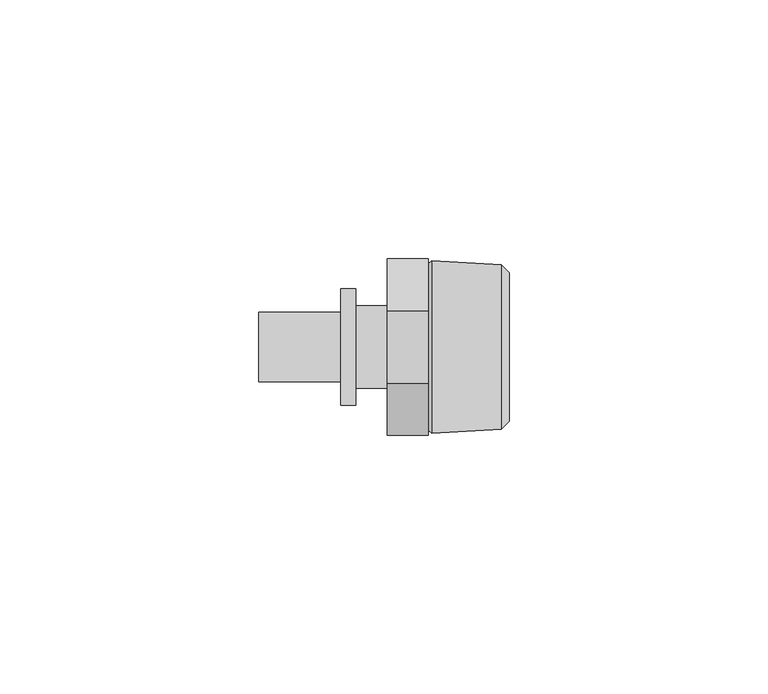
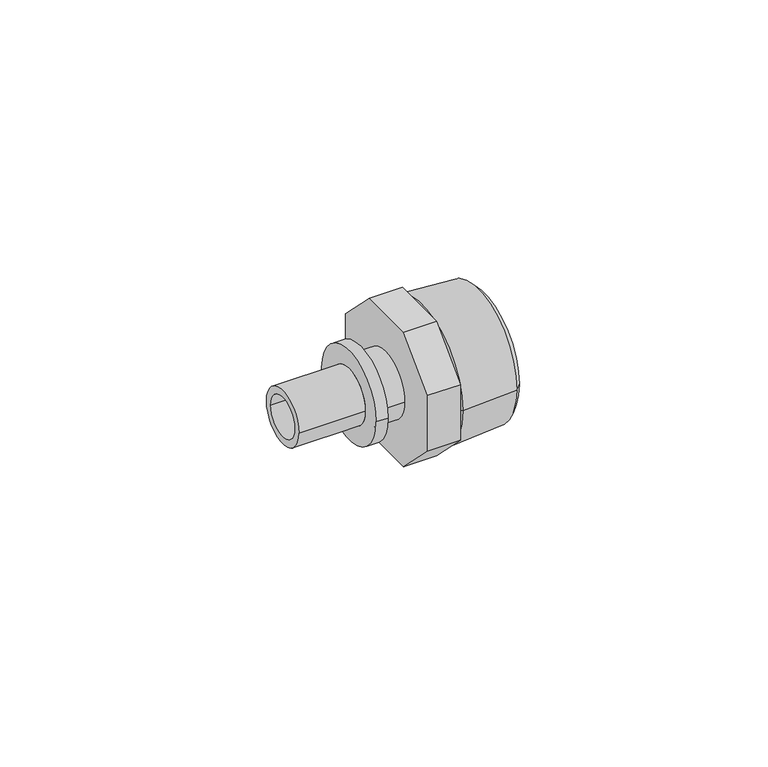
"""IFC4 building model written with IfcOpenShell, lengths in millimetres: pipe fitting geometry, REHAU_RAUTITAN_Adaptor_RX+, with external thread : REHAU_RAUTITAN_Adaptor_RX+, with external thread."""

from ifc_helpers import new_model, si_unit, point, frame, origin, origin_2d, place, context, project, spatial, polyline, circle_curve, trimmed, segment, composite_curve, outline, extrude, source, transform, mapped, element, save
from ifc_brep_helpers import plane_surface, cylinder_surface, revolved_surface, advanced_brep


def pipe_fitting_3f19c21a(model_context):
    return source(origin(), model_context, "Body", "SolidModel", [
        advanced_brep(
        [(8.9732803, 12.75, 0.0), (8.9732803, -12.75, 0.0), (23.5, -12.75, 0.0), (23.5, 12.75, 0.0), (7.87, 11.6467197, 0.0), (7.87, -11.6467197, 0.0), (8.6106902, 16.695, 0.0), (8.6106902, -16.695, 0.0), (7.87, -16.1, 0.0), (7.87, 16.1, 0.0), (22.0000007, 15.91, 0.0), (22.0000007, -15.91, 0.0), (23.5, 14.3, 0.0), (23.5, -14.3, 0.0)],
        [
            (0, 1, circle_curve(frame((8.9732803, 0.0, 0.0), z_axis=(-1.0, 0.0, 0.0), x_axis=(0.0, -1.0, 0.0)), 12.75)),
            (1, 2),
            (2, 3, circle_curve(frame((23.5, 0.0, 0.0), z_axis=(1.0, 0.0, 0.0), x_axis=(0.0, -1.0, 0.0)), 12.75)),
            (3, 0),
            (4, 5, circle_curve(frame((7.87, 0.0, 0.0), z_axis=(-1.0, 0.0, 0.0), x_axis=(0.0, -1.0, 0.0)), 11.6467197)),
            (5, 1),
            (0, 4),
            (6, 7, circle_curve(frame((8.6106902, 0.0, 0.0), z_axis=(-1.0, 0.0, 0.0), x_axis=(0.0, -1.0, 0.0)), 16.695)),
            (7, 8),
            (8, 9, circle_curve(frame((7.87, 0.0, 0.0), z_axis=(1.0, 0.0, 0.0), x_axis=(0.0, -1.0, 0.0)), 16.1)),
            (9, 6),
            (10, 11, circle_curve(frame((22.0000007, 0.0, 0.0), z_axis=(-1.0, 0.0, 0.0), x_axis=(0.0, -1.0, 0.0)), 15.91)),
            (11, 7),
            (6, 10),
            (12, 13, circle_curve(frame((23.5, 0.0, 0.0), z_axis=(-1.0, 0.0, 0.0), x_axis=(0.0, -1.0, 0.0)), 14.3)),
            (13, 11),
            (10, 12),
            (1, 0, circle_curve(frame((8.9732803, 0.0, 0.0), z_axis=(-1.0, 0.0, 0.0), x_axis=(0.0, 1.0, 0.0)), 12.75)),
            (3, 2, circle_curve(frame((23.5, 0.0, 0.0), z_axis=(1.0, 0.0, 0.0), x_axis=(0.0, 1.0, 0.0)), 12.75)),
            (5, 4, circle_curve(frame((7.87, 0.0, 0.0), z_axis=(-1.0, 0.0, 0.0), x_axis=(0.0, 1.0, 0.0)), 11.6467197)),
            (8, 9, circle_curve(frame((7.87, 0.0, 0.0), z_axis=(-1.0, 0.0, 0.0), x_axis=(0.0, 1.0, 0.0)), 16.1)),
            (7, 6, circle_curve(frame((8.6106902, 0.0, 0.0), z_axis=(-1.0, 0.0, 0.0), x_axis=(0.0, 1.0, 0.0)), 16.695)),
            (11, 10, circle_curve(frame((22.0000007, 0.0, 0.0), z_axis=(-1.0, 0.0, 0.0), x_axis=(0.0, 1.0, 0.0)), 15.91)),
            (13, 12, circle_curve(frame((23.5, 0.0, 0.0), z_axis=(-1.0, 0.0, 0.0), x_axis=(0.0, 1.0, 0.0)), 14.3)),
        ],
        [
            revolved_surface(polyline([(23.5, -12.75, 0.0), (8.9732803, -12.75, 0.0)]), (0.0, 0.0, 0.0), (1.0, 0.0, 0.0)),
            revolved_surface(polyline([(8.9732803, -12.75, 0.0), (7.87, -11.6467197, 0.0)]), (0.0, 0.0, 0.0), (1.0, 0.0, 0.0)),
            revolved_surface(polyline([(7.87, -16.1, 0.0), (8.6106902, -16.695, 0.0)]), (0.0, 0.0, 0.0), (1.0, 0.0, 0.0)),
            revolved_surface(polyline([(8.6106902, -16.695, 0.0), (22.0000007, -15.91, 0.0)]), (0.0, 0.0, 0.0), (1.0, 0.0, 0.0)),
            revolved_surface(polyline([(22.0000007, -15.91, 0.0), (23.5, -14.3, 0.0)]), (0.0, 0.0, 0.0), (1.0, 0.0, 0.0)),
            revolved_surface(polyline([(23.5, 12.75, 0.0), (8.9732803, 12.75, 0.0)]), (0.0, 0.0, 0.0), (1.0, 0.0, 0.0)),
            revolved_surface(polyline([(8.9732803, 12.75, 0.0), (7.87, 11.6467197, 0.0)]), (0.0, 0.0, 0.0), (1.0, 0.0, 0.0)),
            plane_surface(frame((7.87, 0.0, 0.0), z_axis=(-1.0, 0.0, 0.0), x_axis=(0.0, 1.0, 0.0))),
            revolved_surface(polyline([(7.87, 16.1, 0.0), (8.6106902, 16.695, 0.0)]), (0.0, 0.0, 0.0), (1.0, 0.0, 0.0)),
            revolved_surface(polyline([(8.6106902, 16.695, 0.0), (22.0000007, 15.91, 0.0)]), (0.0, 0.0, 0.0), (1.0, 0.0, 0.0)),
            revolved_surface(polyline([(22.0000007, 15.91, 0.0), (23.5, 14.3, 0.0)]), (0.0, 0.0, 0.0), (1.0, 0.0, 0.0)),
            plane_surface(frame((23.5, 0.0, 0.0), z_axis=(1.0, 0.0, 0.0), x_axis=(0.0, 1.0, 0.0))),
        ],
        [
            (0, [[1, 2, 3, 4]]),
            (1, [[5, 6, -1, 7]]),
            (2, [[8, 9, 10, 11]]),
            (3, [[12, 13, -8, 14]]),
            (4, [[15, 16, -12, 17]]),
            (5, [[18, -4, 19, -2]]),
            (6, [[20, -7, -18, -6]]),
            (7, [[21, -10], [-20, -5]]),
            (8, [[22, -11, -21, -9]]),
            (9, [[23, -14, -22, -13]]),
            (10, [[24, -17, -23, -16]]),
            (11, [[-24, -15], [-19, -3]]),
        ],
    ),
        extrude(outline(polyline([(-7.0416306, -17.0), (-17.0, -7.0416306), (-17.0, 7.0416306), (-7.0416306, 17.0), (7.0416306, 17.0), (17.0, 7.0416306), (17.0, -7.0416306), (7.0416306, -17.0), (-7.0416306, -17.0)]), holes=[composite_curve([segment(trimmed(circle_curve(origin_2d(), 4.95), [point((-4.95, 0.0))], [point((4.95, 0.0))], True, "CARTESIAN"), True, "CONTINUOUS"), segment(trimmed(circle_curve(origin_2d(), 4.95), [point((4.95, 0.0))], [point((-4.95, 0.0))], True, "CARTESIAN"), True, "CONTINUOUS")], self_intersect=False)]), frame((0.0, 0.0, 0.0), z_axis=(1.0, 0.0, 0.0), x_axis=(0.0, 1.0, 0.0)), (0.0, 0.0, 1.0), 7.87),
        advanced_brep(
        [(-24.8, 4.95, 0.0), (-24.8, -4.95, 0.0), (0.0, -4.95, 0.0), (0.0, 4.95, 0.0), (-8.97, 6.725, 0.0), (-8.97, -6.725, 0.0), (-24.8, -6.725, 0.0), (-24.8, 6.725, 0.0), (-6.1, 11.25, 0.0), (-6.1, -11.25, 0.0), (-8.97, -11.25, 0.0), (-8.97, 11.25, 0.0), (0.0, 8.0, 0.0), (0.0, -8.0, 0.0), (-6.1, -8.0, 0.0), (-6.1, 8.0, 0.0)],
        [
            (0, 1, circle_curve(frame((-24.8, 0.0, 0.0), z_axis=(-1.0, 0.0, 0.0), x_axis=(0.0, -1.0, 0.0)), 4.95)),
            (1, 2),
            (2, 3, circle_curve(frame((0.0, 0.0, 0.0), z_axis=(1.0, 0.0, 0.0), x_axis=(0.0, -1.0, 0.0)), 4.95)),
            (3, 0),
            (4, 5, circle_curve(frame((-8.97, 0.0, 0.0), z_axis=(-1.0, 0.0, 0.0), x_axis=(0.0, -1.0, 0.0)), 6.725)),
            (5, 6),
            (6, 7, circle_curve(frame((-24.8, 0.0, 0.0), z_axis=(1.0, 0.0, 0.0), x_axis=(0.0, -1.0, 0.0)), 6.725)),
            (7, 4),
            (8, 9, circle_curve(frame((-6.1, 0.0, 0.0), z_axis=(-1.0, 0.0, 0.0), x_axis=(0.0, -1.0, 0.0)), 11.25)),
            (9, 10),
            (10, 11, circle_curve(frame((-8.97, 0.0, 0.0), z_axis=(1.0, 0.0, 0.0), x_axis=(0.0, -1.0, 0.0)), 11.25)),
            (11, 8),
            (12, 13, circle_curve(frame((0.0, 0.0, 0.0), z_axis=(-1.0, 0.0, 0.0), x_axis=(0.0, -1.0, 0.0)), 8.0)),
            (13, 14),
            (14, 15, circle_curve(frame((-6.1, 0.0, 0.0), z_axis=(1.0, 0.0, 0.0), x_axis=(0.0, -1.0, 0.0)), 8.0)),
            (15, 12),
            (12, 13, circle_curve(frame((0.0, 0.0, 0.0), z_axis=(1.0, 0.0, 0.0), x_axis=(0.0, 1.0, 0.0)), 8.0)),
            (2, 3, circle_curve(frame((0.0, 0.0, 0.0), z_axis=(-1.0, 0.0, 0.0), x_axis=(0.0, 1.0, 0.0)), 4.95)),
            (1, 0, circle_curve(frame((-24.8, 0.0, 0.0), z_axis=(-1.0, 0.0, 0.0), x_axis=(0.0, 1.0, 0.0)), 4.95)),
            (6, 7, circle_curve(frame((-24.8, 0.0, 0.0), z_axis=(-1.0, 0.0, 0.0), x_axis=(0.0, 1.0, 0.0)), 6.725)),
            (5, 4, circle_curve(frame((-8.97, 0.0, 0.0), z_axis=(-1.0, 0.0, 0.0), x_axis=(0.0, 1.0, 0.0)), 6.725)),
            (10, 11, circle_curve(frame((-8.97, 0.0, 0.0), z_axis=(-1.0, 0.0, 0.0), x_axis=(0.0, 1.0, 0.0)), 11.25)),
            (9, 8, circle_curve(frame((-6.1, 0.0, 0.0), z_axis=(-1.0, 0.0, 0.0), x_axis=(0.0, 1.0, 0.0)), 11.25)),
            (14, 15, circle_curve(frame((-6.1, 0.0, 0.0), z_axis=(-1.0, 0.0, 0.0), x_axis=(0.0, 1.0, 0.0)), 8.0)),
        ],
        [
            revolved_surface(polyline([(0.0, -4.95, 0.0), (-24.8, -4.95, 0.0)]), (0.0, 0.0, 0.0), (1.0, 0.0, 0.0)),
            cylinder_surface(frame((0.0, 0.0, 0.0), z_axis=(1.0, 0.0, 0.0), x_axis=(0.0, -1.0, 0.0)), 6.725),
            cylinder_surface(frame((0.0, 0.0, 0.0), z_axis=(1.0, 0.0, 0.0), x_axis=(0.0, -1.0, 0.0)), 11.25),
            cylinder_surface(frame((0.0, 0.0, 0.0), z_axis=(1.0, 0.0, 0.0), x_axis=(0.0, -1.0, 0.0)), 8.0),
            plane_surface(frame((0.0, 0.0, 0.0), z_axis=(1.0, 0.0, 0.0), x_axis=(0.0, 1.0, 0.0))),
            revolved_surface(polyline([(0.0, 4.95, 0.0), (-24.8, 4.95, 0.0)]), (0.0, 0.0, 0.0), (1.0, 0.0, 0.0)),
            plane_surface(frame((-24.8, 0.0, 0.0), z_axis=(-1.0, 0.0, 0.0), x_axis=(0.0, 1.0, 0.0))),
            cylinder_surface(frame((0.0, 0.0, 0.0), z_axis=(1.0, 0.0, 0.0), x_axis=(0.0, 1.0, 0.0)), 6.725),
            plane_surface(frame((-8.97, 0.0, 0.0), z_axis=(-1.0, 0.0, 0.0), x_axis=(0.0, 1.0, 0.0))),
            cylinder_surface(frame((0.0, 0.0, 0.0), z_axis=(1.0, 0.0, 0.0), x_axis=(0.0, 1.0, 0.0)), 11.25),
            plane_surface(frame((-6.1, 0.0, 0.0), z_axis=(1.0, 0.0, 0.0), x_axis=(0.0, 1.0, 0.0))),
            cylinder_surface(frame((0.0, 0.0, 0.0), z_axis=(1.0, 0.0, 0.0), x_axis=(0.0, 1.0, 0.0)), 8.0),
        ],
        [
            (0, [[1, 2, 3, 4]]),
            (1, [[5, 6, 7, 8]]),
            (2, [[9, 10, 11, 12]]),
            (3, [[13, 14, 15, 16]]),
            (4, [[17, -13], [18, -3]]),
            (5, [[19, -4, -18, -2]]),
            (6, [[20, -7], [-19, -1]]),
            (7, [[21, -8, -20, -6]]),
            (8, [[22, -11], [-21, -5]]),
            (9, [[23, -12, -22, -10]]),
            (10, [[-23, -9], [24, -15]]),
            (11, [[-17, -16, -24, -14]]),
        ],
    ),
    ])


if __name__ == "__main__":
    model = new_model("IFC4")
    model_context = context("Model", 3, world=origin())
    ifc_project = project(units=[si_unit("LENGTHUNIT", "METRE", prefix="MILLI")], contexts=[model_context])
    site = spatial("IfcSite", under=ifc_project)
    building = spatial("IfcBuilding", under=site)
    placement = place(None, origin())
    pipe_fitting_shape = pipe_fitting_3f19c21a(model_context)
    element("IfcPipeFitting", 1, ObjectType="REHAU_RAUTITAN_Adaptor_RX+, with external thread : REHAU_RAUTITAN_Adaptor_RX+, with external thread", at=placement, inside=building, context=model_context, shape_type="MappedRepresentation", body=[
        mapped(pipe_fitting_shape, transform((0.0, 0.0, 0.0), x_axis=(1.0, 0.0, 0.0), y_axis=(0.0, 1.0, 0.0), z_axis=(0.0, 0.0, 1.0))),
    ])
    save(model, "model.ifc")
